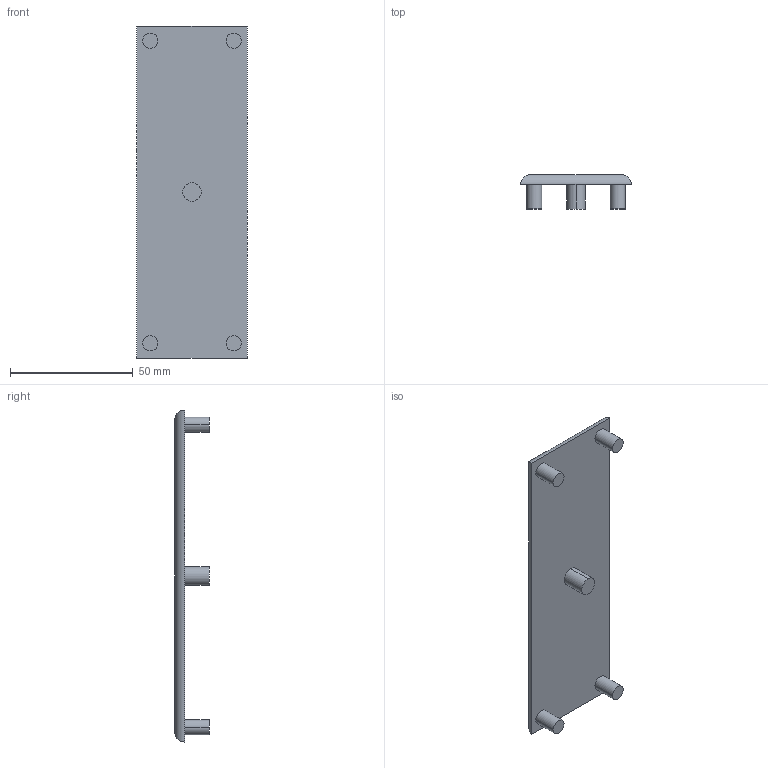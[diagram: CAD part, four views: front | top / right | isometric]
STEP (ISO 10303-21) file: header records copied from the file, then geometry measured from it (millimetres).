
FILE_DESCRIPTION((''),'2;1');
FILE_NAME('TAC45135X','2002-12-27T',('Lipro doo'),('Lipro d.o.o.'),'PRO/ENGINEER BY PARAMETRIC TECHNOLOGY CORPORATION, 2001150','PRO/ENGINEER BY PARAMETRIC TECHNOLOGY CORPORATION, 2001150','');
FILE_SCHEMA(('CONFIG_CONTROL_DESIGN'));
Length unit declared in the file: millimetre
Products named in the file (1): TAC45135X
Bounding box: 45 x 14 x 135 mm (x, y, z)
Volume: 24737.9 mm3; surface area: 13977.6 mm2
Topology: 1 solids, 1 shells, 21 faces, 42 edges, 28 vertices
Faces by surface type: cylinder 14, plane 7
Entity records: 630 total; most frequent: CARTESIAN_POINT 135, DIRECTION 100, ORIENTED_EDGE 84, EDGE_CURVE 42, AXIS2_PLACEMENT_3D 41, VERTEX_POINT 28, EDGE_LOOP 26, FACE_OUTER_BOUND 21
